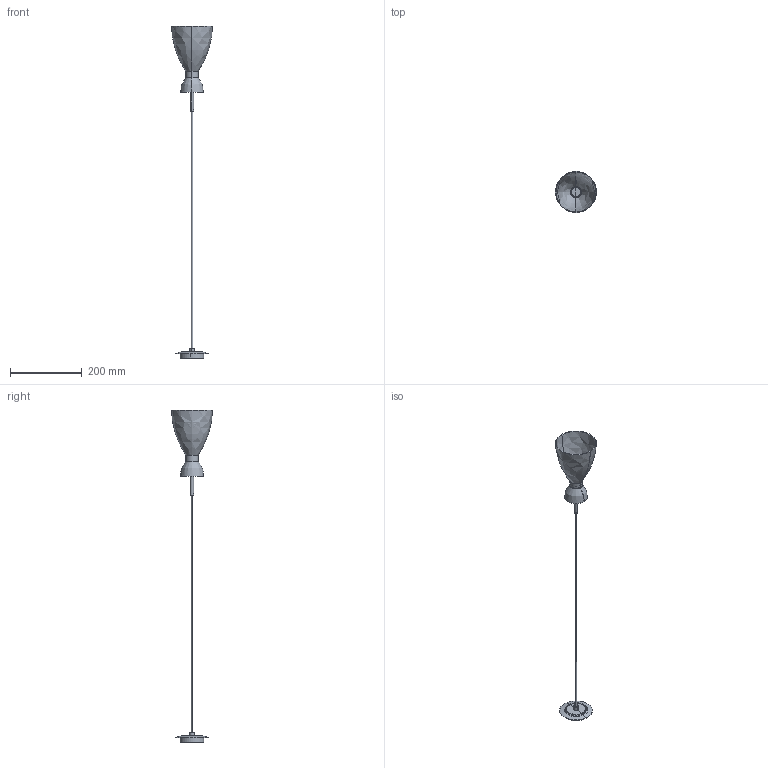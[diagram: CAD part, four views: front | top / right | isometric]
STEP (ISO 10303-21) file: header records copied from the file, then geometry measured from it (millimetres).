
FILE_DESCRIPTION(/* description */ (''),/* implementation_level */ '2;1');
FILE_NAME(/* name */ 'C:\Users\FrancoSartori\Documents\FARO\03_Completados\RETRO\03_Publicación\20050.stp',/* time_stamp */ '2021-08-04T10:30:25+02:00',/* author */ ('FrancoSartori'),/* organization */ (''),/* preprocessor_version */ 'ST-DEVELOPER v18.1',/* originating_system */ 'AutoCAD Mechanical',/* authorisation */ '');
FILE_SCHEMA (('AUTOMOTIVE_DESIGN { 1 0 10303 214 3 1 1 }'));
Length unit declared in the file: millimetre
Products named in the file (3): Product; 20016_20046_20050_support - RETRO-471309-Export; 20046_ 20050_LAMP - lamp-471310-Export
Assembly tree (2 placements, depth 2):
  Product
    20016_20046_20050_support - RETRO-471309-Export
    20046_ 20050_LAMP - lamp-471310-Export
Bounding box: 115 x 115 x 927 mm (x, y, z)
Volume: 124667.1 mm3; surface area: 227000.1 mm2
Topology: 9 solids, 9 shells, 118 faces, 236 edges, 126 vertices
Faces by surface type: plane 52, cylinder 38, bspline 16, cone 8, torus 4
Entity records: 3367 total; most frequent: CARTESIAN_POINT 837, DIRECTION 556, ORIENTED_EDGE 472, EDGE_CURVE 236, AXIS2_PLACEMENT_3D 227, VERTEX_POINT 126, EDGE_LOOP 124, CIRCLE 120
